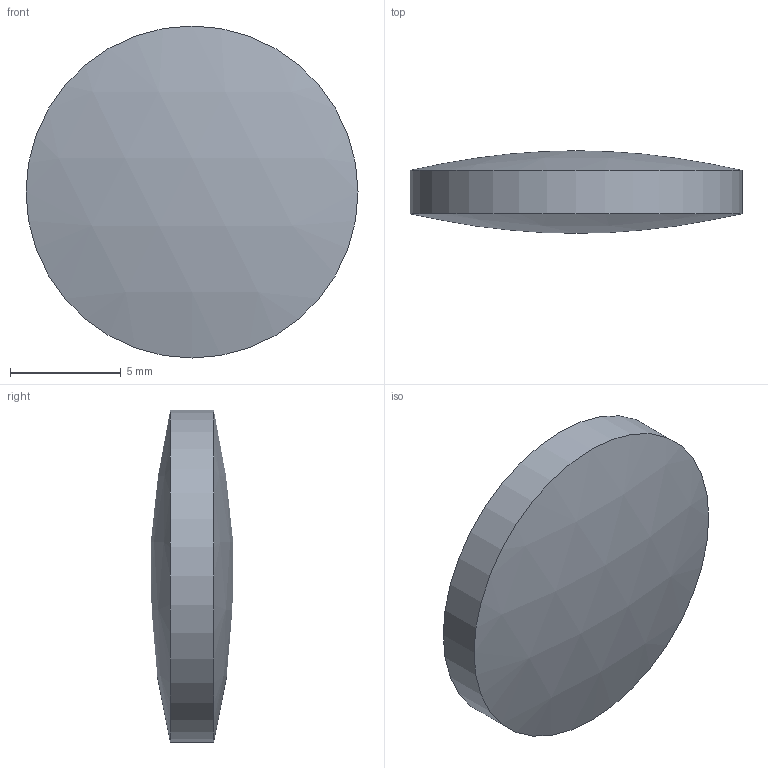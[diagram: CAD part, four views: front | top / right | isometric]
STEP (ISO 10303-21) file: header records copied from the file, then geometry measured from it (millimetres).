
FILE_DESCRIPTION((''),'2;1');
FILE_NAME('T:\Public\7_3次元データ\1図面ﾃﾞｰﾀ\7_素子\レンズ\5_球面両凸レンズ-BK7(SLB-B-P)\SLB-B-P\φ15\SLB-15B-30P\SLB-15B-30P.stp','2009-05-13T14:19:05',('okegawa'),(''),'Autodesk Inventor 2008','Autodesk Inventor 2008','');
FILE_SCHEMA(('AUTOMOTIVE_DESIGN { 1 0 10303 214 1 1 1 1 }'));
Length unit declared in the file: millimetre
Products named in the file (1): SLB-15B-30P
Bounding box: 15 x 3.73 x 15 mm (x, y, z)
Volume: 510.3 mm3; surface area: 451.4 mm2
Topology: 1 solids, 1 shells, 3 faces, 3 edges, 2 vertices
Faces by surface type: sphere 2, cylinder 1
Full cylindrical faces by diameter (mm): 15 x1
Entity records: 80 total; most frequent: DIRECTION 12, CARTESIAN_POINT 8, AXIS2_PLACEMENT_3D 6, ORIENTED_EDGE 4, EDGE_LOOP 4, FACE_OUTER_BOUND 3, ADVANCED_FACE 3, DIMENSIONAL_EXPONENTS 2
